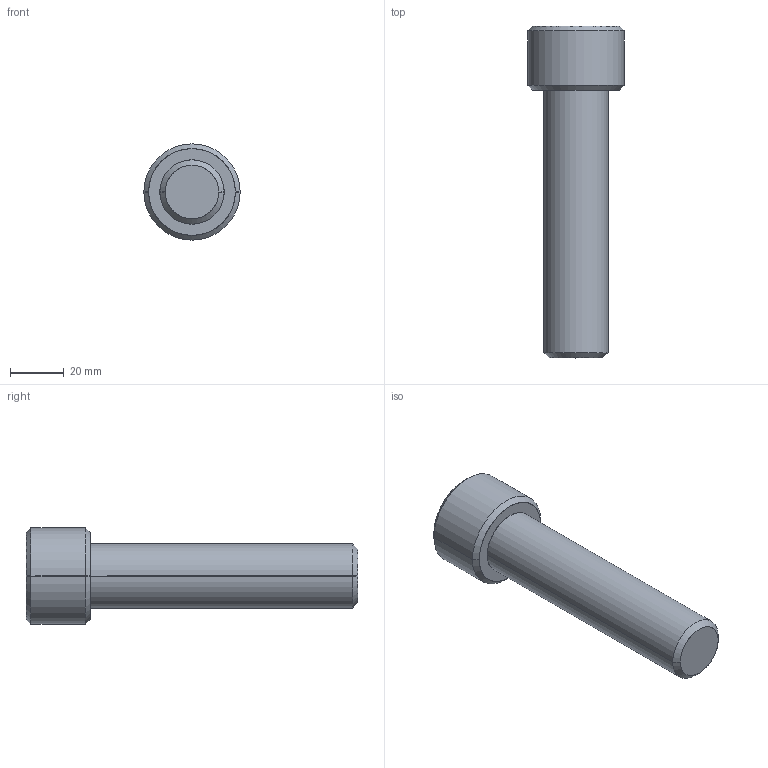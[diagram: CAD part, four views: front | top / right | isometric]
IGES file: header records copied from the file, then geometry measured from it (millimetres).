
Start section: SolidWorks IGES file using analytic representation for surfaces
Global section: file name: D:\Cleonir_arquivos\MT_15_07\Parafuso Allen Cabeça Cilindrica\CLM24100.igs; native system: SolidWorks 2013; preprocessor: SolidWorks 2013; author: Cleonir; date: 130730.130350; units: millimetre
Bounding box: 36 x 124 x 36 mm (x, y, z)
Surface area: 12992 mm2 (no closed solid volume)
Topology: 0 solids, 0 shells, 280 faces, 2443 edges, 2443 vertices
Faces by surface type: bspline 262, revolution 18
